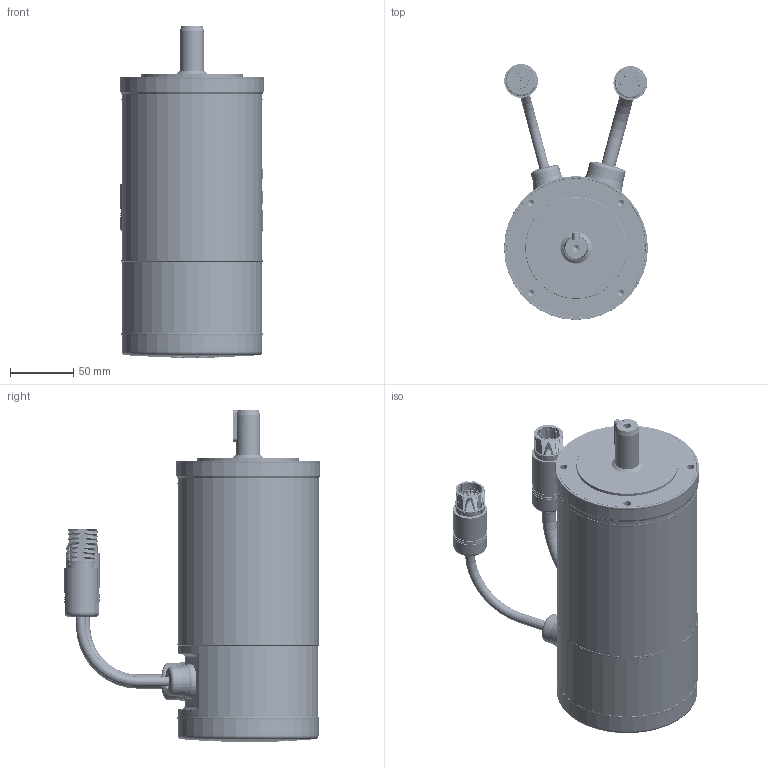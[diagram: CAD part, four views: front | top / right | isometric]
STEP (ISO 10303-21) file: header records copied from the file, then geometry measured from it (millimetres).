
FILE_DESCRIPTION (( 'STEP AP203' ), '1' );
FILE_NAME ('999-001-2160-M542-GK07-02W9-N03S-N.STEP', '2020-08-26T14:09:22', ( '' ), ( '' ), 'SwSTEP 2.0', 'SolidWorks 2019', '' );
FILE_SCHEMA (( 'CONFIG_CONTROL_DESIGN' ));
Length unit declared in the file: inch
Products named in the file (1): 999-001-2160-M542-GK07-02W9-N03S-N
Bounding box: 113.39 x 201.8 x 261.57 mm (x, y, z)
Volume: 940732.7 mm3; surface area: 335734.6 mm2
Topology: 50 solids, 50 shells, 5030 faces, 13280 edges, 8688 vertices
Faces by surface type: plane 2109, cylinder 1502, bspline 809, torus 398, cone 113, sphere 99
Entity records: 330289 total; most frequent: CARTESIAN_POINT 211507, ORIENTED_EDGE 26444, DIRECTION 22930, EDGE_CURVE 13222, VERTEX_POINT 8688, AXIS2_PLACEMENT_3D 8441, LINE 6048, VECTOR 6048
